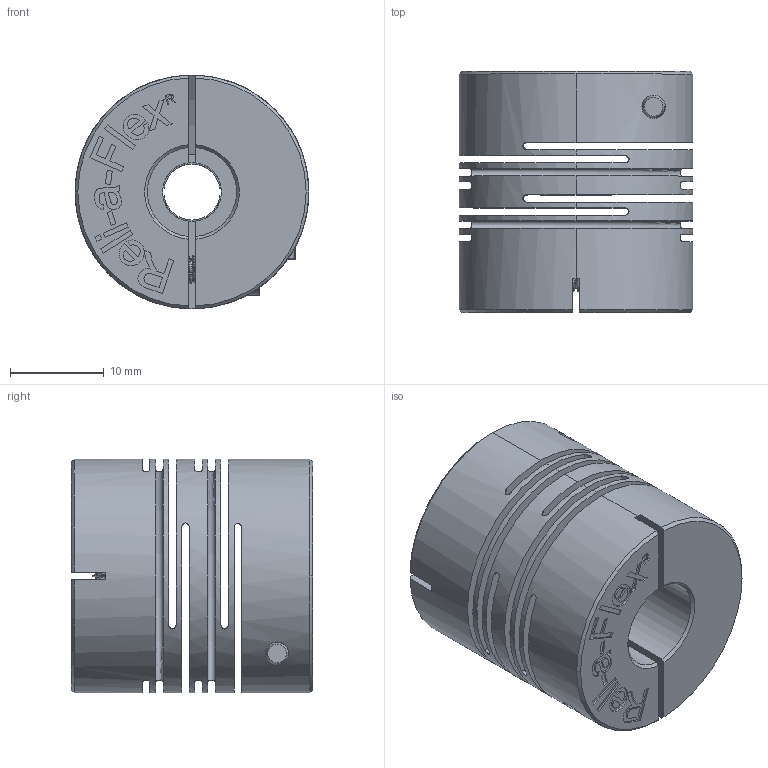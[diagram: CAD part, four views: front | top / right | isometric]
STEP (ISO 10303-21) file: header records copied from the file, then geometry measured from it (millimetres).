
FILE_DESCRIPTION (( 'STEP AP203' ), '1' );
FILE_NAME ('RCSA25C-0.375-6.STEP', '2012-04-26T13:34:38', ( 'render' ), ( '' ), 'SwSTEP 2.0', 'SolidWorks 2011', '' );
FILE_SCHEMA (( 'CONFIG_CONTROL_DESIGN' ));
Length unit declared in the file: millimetre
Products named in the file (1): RCSA25C-0.375-6
Bounding box: 25 x 25.8 x 25 mm (x, y, z)
Volume: 8837.3 mm3; surface area: 10384.9 mm2
Topology: 3 solids, 3 shells, 369 faces, 1002 edges, 663 vertices
Faces by surface type: cylinder 168, plane 158, cone 21, torus 16, bspline 6
Entity records: 22897 total; most frequent: CARTESIAN_POINT 13887, ORIENTED_EDGE 2004, DIRECTION 1734, EDGE_CURVE 1002, VERTEX_POINT 663, AXIS2_PLACEMENT_3D 608, LINE 518, VECTOR 518
